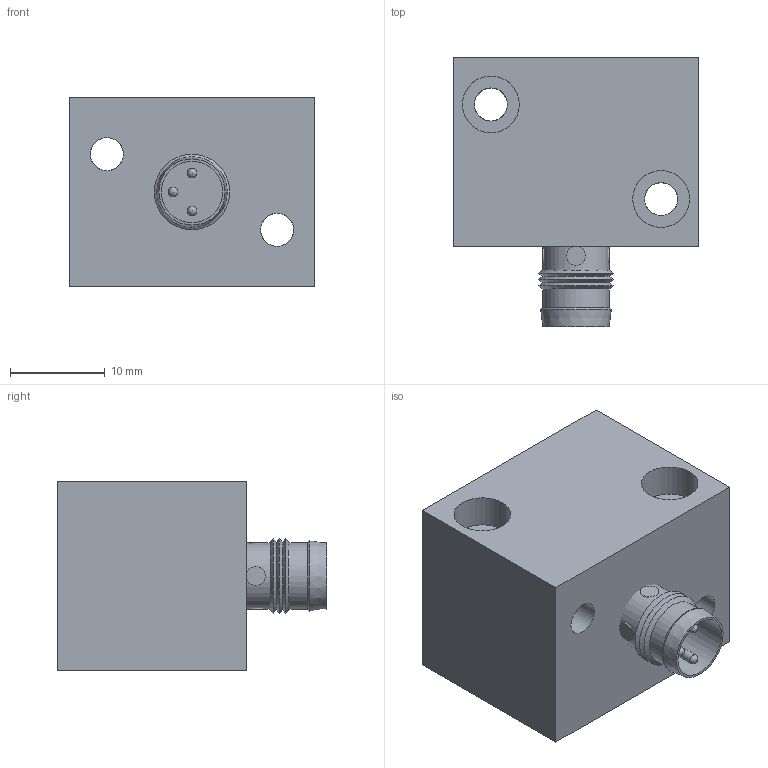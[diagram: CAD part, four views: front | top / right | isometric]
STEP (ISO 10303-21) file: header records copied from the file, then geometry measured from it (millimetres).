
FILE_DESCRIPTION(('FreeCAD Model'),'2;1');
FILE_NAME('Open CASCADE Shape Model','2025-10-17T11:31:52',(''),(''), 'Open CASCADE STEP processor 7.6','FreeCAD','Unknown');
FILE_SCHEMA(('AUTOMOTIVE_DESIGN { 1 0 10303 214 1 1 1 1 }'));
Length unit declared in the file: millimetre
Products named in the file (6): DCQ_2020; Körper; Part; Stecker; Zylinder; Zylinder001
Assembly tree (5 placements, depth 3):
  DCQ_2020
    Körper
    Part
      Stecker
      Zylinder
      Zylinder001
Bounding box: 26 x 28.5 x 20 mm (x, y, z)
Volume: 9808.4 mm3; surface area: 4203.1 mm2
Topology: 4 solids, 4 shells, 45 faces, 92 edges, 55 vertices
Faces by surface type: cylinder 18, plane 16, cone 7, sphere 3, torus 1
Full cylindrical faces by diameter (mm): 1 x3, 2 x2, 3.5 x8, 6 x2, 6.5 x1, 7 x2
Entity records: 1332 total; most frequent: DIRECTION 243, CARTESIAN_POINT 195, ORIENTED_EDGE 178, AXIS2_PLACEMENT_3D 103, EDGE_CURVE 89, FACE_BOUND 60, EDGE_LOOP 60, VERTEX_POINT 55
